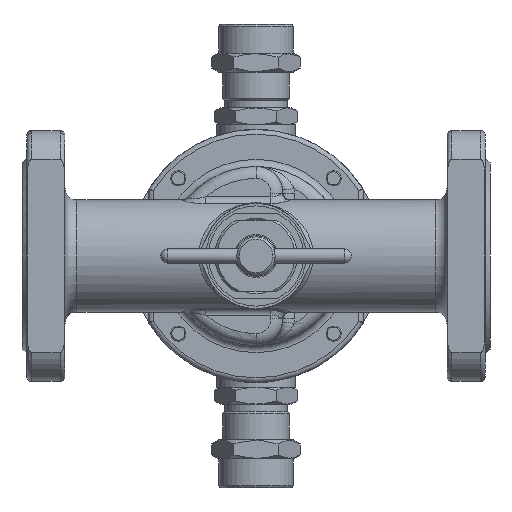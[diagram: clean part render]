
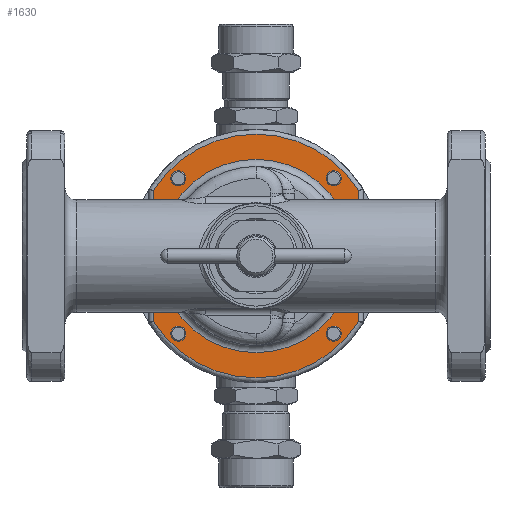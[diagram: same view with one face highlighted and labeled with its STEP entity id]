
A CAD part, front view. The second image highlights one B-rep face of the part: STEP entity #1630.
In plain terms, the highlighted planar face has unit normal (0, -1, 0).
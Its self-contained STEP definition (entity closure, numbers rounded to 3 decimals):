
#1630=ADVANCED_FACE('',(#17163,#17165,#17167,#17169,#17171,#17173),#17175,.F.);
#17163=FACE_BOUND('',#17164,.T.);
#17164=EDGE_LOOP('',(#29739));
#17165=FACE_BOUND('',#17166,.T.);
#17166=EDGE_LOOP('',(#29740));
#17167=FACE_BOUND('',#17168,.T.);
#17168=EDGE_LOOP('',(#29741));
#17169=FACE_BOUND('',#17170,.T.);
#17170=EDGE_LOOP('',(#29742));
#17171=FACE_BOUND('',#17172,.T.);
#17172=EDGE_LOOP('',(#29743));
#17173=FACE_OUTER_BOUND('',#17174,.T.);
#17174=EDGE_LOOP('',(#29744,#29745,#29746,#29747));
#17175=PLANE('',#17176);
#17176=AXIS2_PLACEMENT_3D('',#17177,#17178,#17179);
#17177=CARTESIAN_POINT('',(0.,30.,0.));
#17178=DIRECTION('',(0.,1.,0.));
#17179=DIRECTION('',(-1.,0.,0.));
#29739=ORIENTED_EDGE('',*,*,#37525,.F.);
#29740=ORIENTED_EDGE('',*,*,#37526,.T.);
#29741=ORIENTED_EDGE('',*,*,#37527,.T.);
#29742=ORIENTED_EDGE('',*,*,#37528,.T.);
#29743=ORIENTED_EDGE('',*,*,#37529,.T.);
#29744=ORIENTED_EDGE('',*,*,#37489,.F.);
#29745=ORIENTED_EDGE('',*,*,#37497,.F.);
#29746=ORIENTED_EDGE('',*,*,#37494,.F.);
#29747=ORIENTED_EDGE('',*,*,#37492,.F.);
#37489=EDGE_CURVE('',#45099,#45101,#45102,.T.);
#37492=EDGE_CURVE('',#45101,#45105,#45106,.T.);
#37494=EDGE_CURVE('',#45105,#45108,#45109,.T.);
#37497=EDGE_CURVE('',#45108,#45099,#45112,.T.);
#37525=EDGE_CURVE('',#45146,#45146,#45147,.T.);
#37526=EDGE_CURVE('',#45148,#45148,#45149,.T.);
#37527=EDGE_CURVE('',#45150,#45150,#45151,.T.);
#37528=EDGE_CURVE('',#45152,#45152,#45153,.T.);
#37529=EDGE_CURVE('',#45154,#45154,#45155,.T.);
#45099=VERTEX_POINT('',#68979);
#45101=VERTEX_POINT('',#68994);
#45102=CIRCLE('',#68995,51.);
#45105=VERTEX_POINT('',#69027);
#45106=LINE('',#69028,#69029);
#45108=VERTEX_POINT('',#69050);
#45109=CIRCLE('',#69051,51.);
#45112=LINE('',#69088,#69089);
#45146=VERTEX_POINT('',#69202);
#45147=CIRCLE('',#69203,40.5);
#45148=VERTEX_POINT('',#69207);
#45149=CIRCLE('',#69208,3.15);
#45150=VERTEX_POINT('',#69212);
#45151=CIRCLE('',#69213,3.15);
#45152=VERTEX_POINT('',#69217);
#45153=CIRCLE('',#69218,3.15);
#45154=VERTEX_POINT('',#69222);
#45155=CIRCLE('',#69223,3.15);
#68979=CARTESIAN_POINT('',(43.,30.,-27.423));
#68994=CARTESIAN_POINT('',(-43.,30.,-27.423));
#68995=AXIS2_PLACEMENT_3D('',#68996,#68997,#68998);
#68996=CARTESIAN_POINT('',(0.,30.,0.));
#68997=DIRECTION('',(0.,1.,0.));
#68998=DIRECTION('',(0.843,0.,-0.538));
#69027=CARTESIAN_POINT('',(-43.,30.,27.423));
#69028=CARTESIAN_POINT('',(-43.,30.,-27.423));
#69029=VECTOR('',#69030,1.);
#69030=DIRECTION('',(0.,0.,1.));
#69050=CARTESIAN_POINT('',(43.,30.,27.423));
#69051=AXIS2_PLACEMENT_3D('',#69052,#69053,#69054);
#69052=CARTESIAN_POINT('',(0.,30.,0.));
#69053=DIRECTION('',(0.,1.,0.));
#69054=DIRECTION('',(-0.843,0.,0.538));
#69088=CARTESIAN_POINT('',(43.,30.,27.423));
#69089=VECTOR('',#69090,1.);
#69090=DIRECTION('',(0.,0.,-1.));
#69202=CARTESIAN_POINT('',(-40.5,30.,0.));
#69203=AXIS2_PLACEMENT_3D('',#69204,#69205,#69206);
#69204=CARTESIAN_POINT('',(0.,30.,0.));
#69205=DIRECTION('',(0.,-1.,0.));
#69206=DIRECTION('',(-1.,0.,0.));
#69207=CARTESIAN_POINT('',(-35.677,30.,-32.527));
#69208=AXIS2_PLACEMENT_3D('',#69209,#69210,#69211);
#69209=CARTESIAN_POINT('',(-32.527,30.,-32.527));
#69210=DIRECTION('',(0.,1.,0.));
#69211=DIRECTION('',(-1.,0.,0.));
#69212=CARTESIAN_POINT('',(29.377,30.,-32.527));
#69213=AXIS2_PLACEMENT_3D('',#69214,#69215,#69216);
#69214=CARTESIAN_POINT('',(32.527,30.,-32.527));
#69215=DIRECTION('',(0.,1.,0.));
#69216=DIRECTION('',(-1.,0.,0.));
#69217=CARTESIAN_POINT('',(29.377,30.,32.527));
#69218=AXIS2_PLACEMENT_3D('',#69219,#69220,#69221);
#69219=CARTESIAN_POINT('',(32.527,30.,32.527));
#69220=DIRECTION('',(0.,1.,0.));
#69221=DIRECTION('',(-1.,0.,0.));
#69222=CARTESIAN_POINT('',(-35.677,30.,32.527));
#69223=AXIS2_PLACEMENT_3D('',#69224,#69225,#69226);
#69224=CARTESIAN_POINT('',(-32.527,30.,32.527));
#69225=DIRECTION('',(0.,1.,0.));
#69226=DIRECTION('',(-1.,0.,0.));
